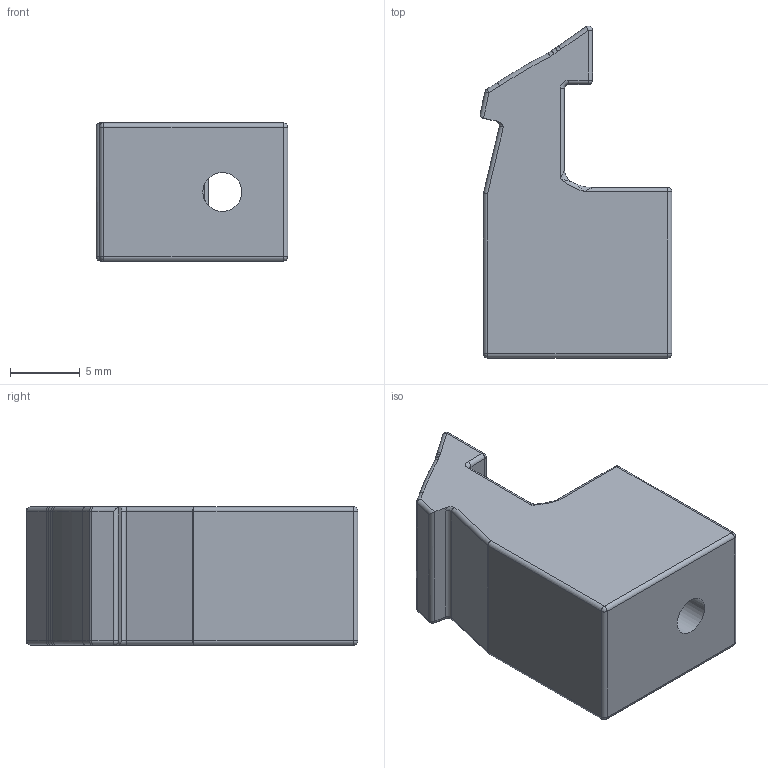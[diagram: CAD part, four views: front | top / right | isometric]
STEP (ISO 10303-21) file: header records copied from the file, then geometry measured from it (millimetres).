
FILE_DESCRIPTION(/* description */ (''),/* implementation_level */ '2;1');
FILE_NAME(/* name */ 'D:/Pew Pews/FGC-9_MkII_Stingray_Edition/Stingray Edition/.step files/2 - Lower/Feed Ramp.step',/* time_stamp */ '2022-05-12T09:37:46-06:00',/* author */ (''),/* organization */ (''),/* preprocessor_version */ 'ST-DEVELOPER v18.1',/* originating_system */ 'Autodesk Translation Framework v10.10.0.1391',/* authorisation */ '');
FILE_SCHEMA (('AUTOMOTIVE_DESIGN { 1 0 10303 214 3 1 1 }'));
Length unit declared in the file: millimetre
Products named in the file (1): Feed Ramp
Bounding box: 13.73 x 23.78 x 9.9 mm (x, y, z)
Volume: 2099.4 mm3; surface area: 1256.9 mm2
Topology: 1 solids, 1 shells, 88 faces, 190 edges, 99 vertices
Faces by surface type: cylinder 41, sphere 15, plane 14, torus 13, bspline 5
Full cylindrical faces by diameter (mm): 2.8 x1
Entity records: 2549 total; most frequent: CARTESIAN_POINT 609, DIRECTION 440, ORIENTED_EDGE 372, EDGE_CURVE 186, AXIS2_PLACEMENT_3D 181, VERTEX_POINT 99, CIRCLE 94, EDGE_LOOP 89
